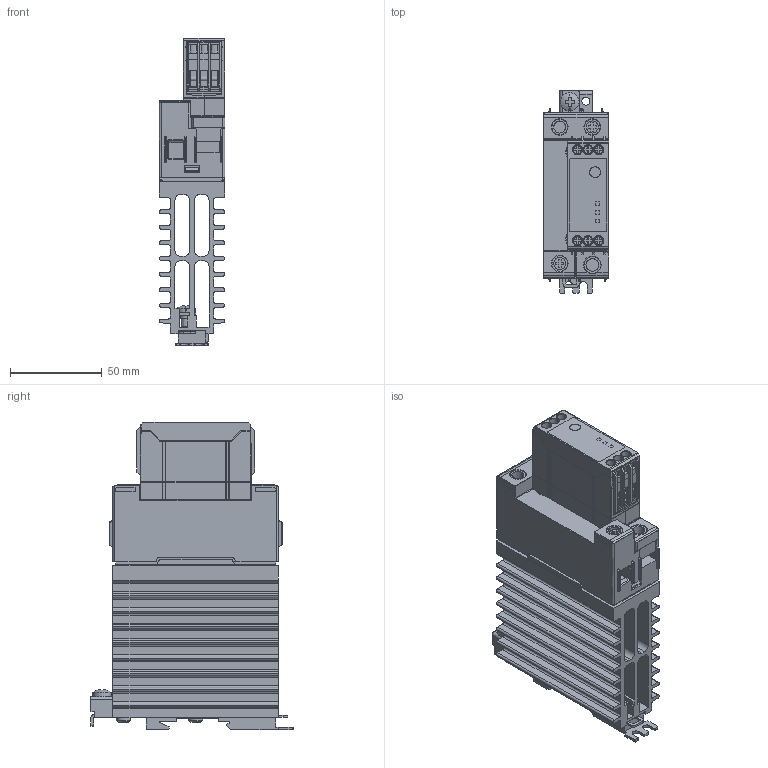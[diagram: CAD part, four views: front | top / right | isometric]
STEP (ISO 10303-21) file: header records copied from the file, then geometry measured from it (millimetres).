
FILE_DESCRIPTION((''),'2;1');
FILE_NAME('CGI0773-02.stp','2012-08-20T13:19:03',(''),(''),'Mechanical Desktop 2009','Mechanical Desktop 2009',', , ');
FILE_SCHEMA(('CONFIG_CONTROL_DESIGN'));
Length unit declared in the file: millimetre
Products named in the file (1): Product
Bounding box: 35.6 x 110 x 167.48 mm (x, y, z)
Volume: 279045 mm3; surface area: 98003.9 mm2
Topology: 8 solids, 8 shells, 1795 faces, 4868 edges, 3073 vertices
Faces by surface type: plane 702, bspline 624, cylinder 371, torus 35, cone 35, sphere 28
Entity records: 62463 total; most frequent: CARTESIAN_POINT 18717, ORIENTED_EDGE 9564, DIRECTION 8456, EDGE_CURVE 4782, VECTOR 3214, LINE 3214, VERTEX_POINT 3077, AXIS2_PLACEMENT_3D 2621
